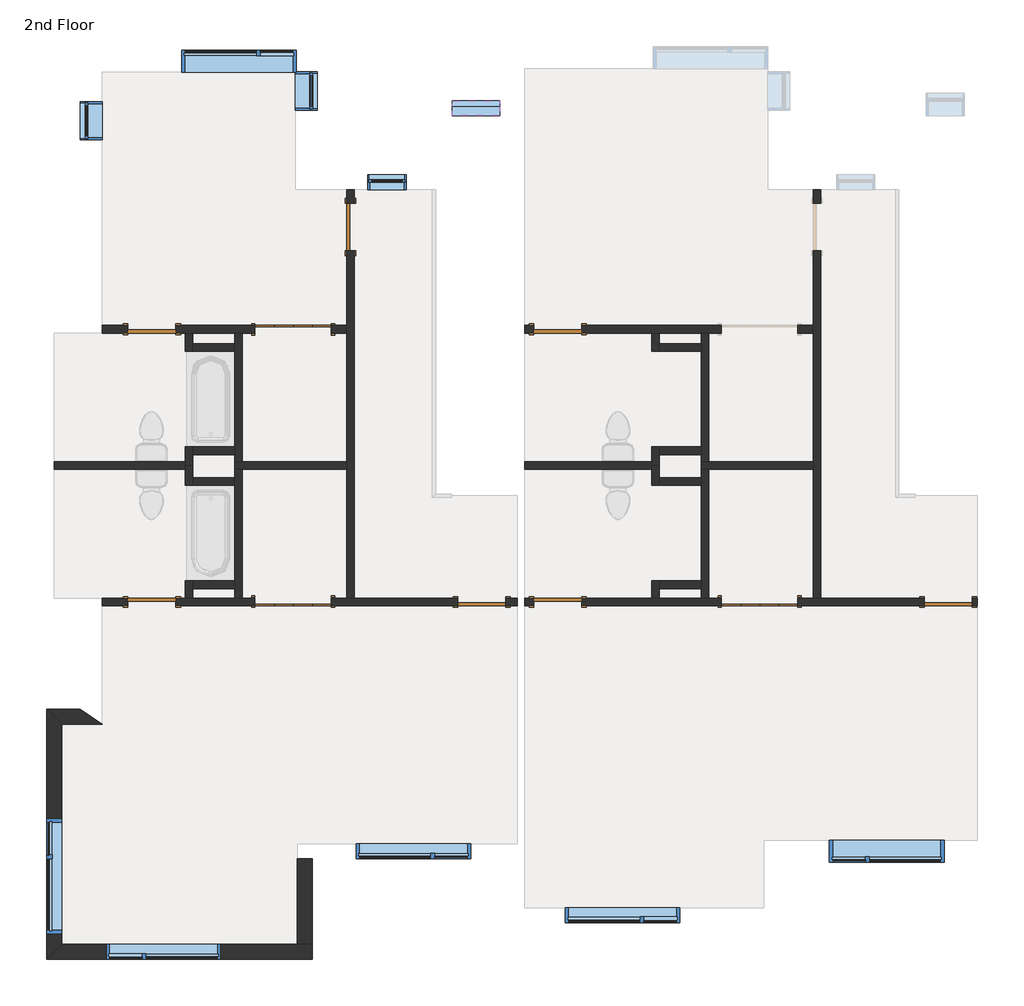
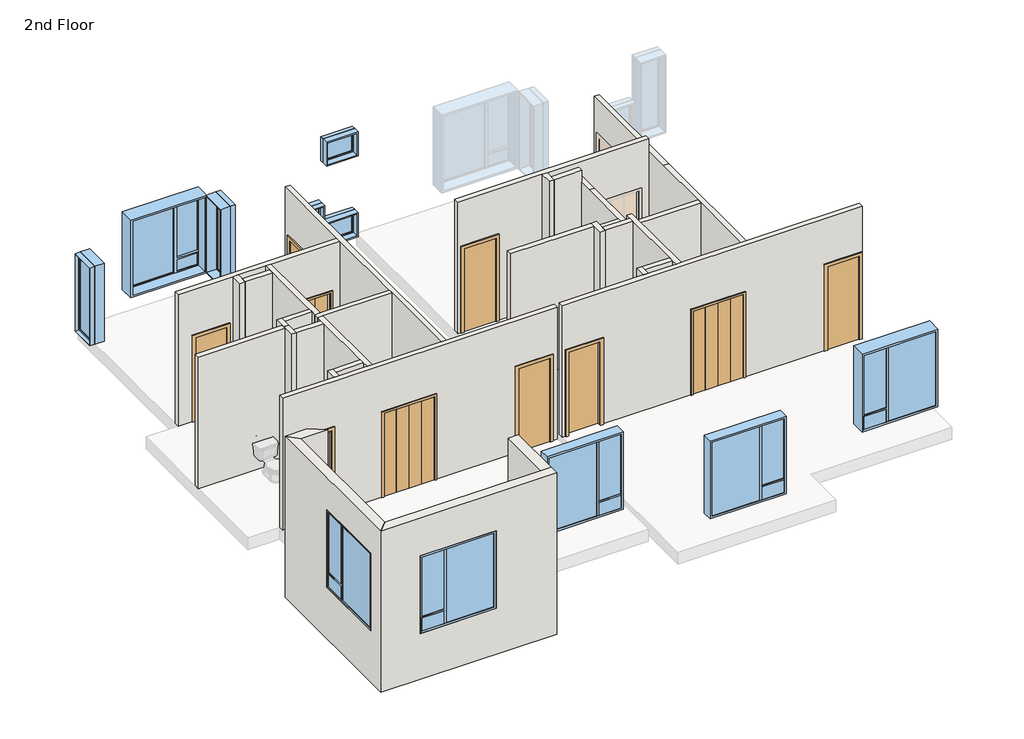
# One storey, part 1 of 2: 34 walls, 12 windows, 10 doors.
"""IFC4 building model written with IfcOpenShell, lengths in millimetres."""

from ifc_helpers import new_model, si_unit, frame, origin, place, context, project, spatial, polyline, outline, extrude, faceted_brep, transform, mapped, element, save
from components import bifold_4_panel_c9060b8c, bifold_4_panel_87549022, door_f8acb57e, door_702a1063, window_8bf192ed, window_b1c1038b, window_03925a3a, window_7b40078c, window_0ea17b29, window_b4566f23

model = new_model("IFC4")

# Units and contexts
model_context = context("Model", 3, world=origin())
ifc_project = project(units=[si_unit("LENGTHUNIT", "METRE", prefix="MILLI")], contexts=[model_context])

# Site, building, storey
site = spatial("IfcSite", under=ifc_project)
building = spatial("IfcBuilding", under=site)
storey = spatial("IfcBuildingStorey", under=building, Name="2nd Floor", Elevation=3352.8)

# Doors
placement = place(None, origin())
bifold_4_panel_shape = bifold_4_panel_c9060b8c(model_context)
element("IfcDoor", 1, ObjectType="Bifold - 4 panel : 48\" x  84\"", at=placement, inside=storey, context=model_context, shape_type="MappedRepresentation", body=[
    mapped(bifold_4_panel_shape, transform((2169.4655789, -2059.4561915, 3352.8), x_axis=(1.0, 0.0, 0.0), y_axis=(0.0, 1.0, 0.0), z_axis=(0.0, 0.0, 1.0))),
])
element("IfcDoor", 2, ObjectType="Bifold - 4 panel : 48\" x  84\"", at=placement, inside=storey, context=model_context, shape_type="MappedRepresentation", body=[
    mapped(bifold_4_panel_shape, transform((-5271.2844211, -2059.4561915, 3352.8), x_axis=(1.0, 0.0, 0.0), y_axis=(0.0, 1.0, 0.0), z_axis=(0.0, 0.0, 1.0))),
])
bifold_4_panel_2_shape = bifold_4_panel_87549022(model_context)
element("IfcDoor", 3, ObjectType="Bifold - 4 panel : 48\" x  84\"", at=placement, inside=storey, context=model_context, shape_type="MappedRepresentation", body=[
    mapped(bifold_4_panel_2_shape, transform((-5271.2844211, 2292.6699206, 3352.8), x_axis=(1.0, 0.0, 0.0), y_axis=(0.0, 1.0, 0.0), z_axis=(0.0, 0.0, 1.0))),
])
door_shape = door_f8acb57e(model_context)
element("IfcDoor", 4, ObjectType="Single-Flush : 30\" x 84\"", at=placement, inside=storey, context=model_context, shape_type="MappedRepresentation", body=[
    mapped(door_shape, transform((-1052.2446781, 2292.6699206, 3352.8), x_axis=(-1.0, 0.0, 0.0), y_axis=(0.0, -1.0, 0.0), z_axis=(0.0, 0.0, 1.0))),
])
element("IfcDoor", 5, ObjectType="Single-Flush : 30\" x 84\"", at=placement, inside=storey, context=model_context, shape_type="MappedRepresentation", body=[
    mapped(door_shape, transform((-4356.8844211, 3921.3063085, 3352.8), x_axis=(0.0, 1.0, 0.0), y_axis=(-1.0, 0.0, 0.0), z_axis=(0.0, 0.0, 1.0))),
])
element("IfcDoor", 6, ObjectType="Single-Flush : 30\" x 84\"", at=placement, inside=storey, context=model_context, shape_type="MappedRepresentation", body=[
    mapped(door_shape, transform((-7524.7446781, -2059.4561915, 3352.8), x_axis=(1.0, 0.0, 0.0), y_axis=(0.0, 1.0, 0.0), z_axis=(0.0, 0.0, 1.0))),
])
door_2_shape = door_702a1063(model_context)
element("IfcDoor", 7, ObjectType="Single-Flush : 30\" x 84\"", at=placement, inside=storey, context=model_context, shape_type="MappedRepresentation", body=[
    mapped(door_2_shape, transform((-1052.2446781, -2059.4561915, 3352.8), x_axis=(-1.0, 0.0, 0.0), y_axis=(0.0, -1.0, 0.0), z_axis=(0.0, 0.0, 1.0))),
])
element("IfcDoor", 8, ObjectType="Single-Flush : 30\" x 84\"", at=placement, inside=storey, context=model_context, shape_type="MappedRepresentation", body=[
    mapped(door_2_shape, transform((5177.5155789, -2059.4561915, 3352.8), x_axis=(1.0, 0.0, 0.0), y_axis=(0.0, 1.0, 0.0), z_axis=(0.0, 0.0, 1.0))),
])
element("IfcDoor", 9, ObjectType="Single-Flush : 30\" x 84\"", at=placement, inside=storey, context=model_context, shape_type="MappedRepresentation", body=[
    mapped(door_2_shape, transform((-7524.7446781, 2292.6699206, 3352.8), x_axis=(1.0, 0.0, 0.0), y_axis=(0.0, 1.0, 0.0), z_axis=(0.0, 0.0, 1.0))),
])
element("IfcDoor", 10, ObjectType="Single-Flush : 30\" x 84\"", at=placement, inside=storey, context=model_context, shape_type="MappedRepresentation", body=[
    mapped(door_2_shape, transform((-2263.2344211, -2059.4561915, 3352.8), x_axis=(1.0, 0.0, 0.0), y_axis=(0.0, 1.0, 0.0), z_axis=(0.0, 0.0, 1.0))),
])

# Walls
element("IfcWall", 11, ObjectType="Exterior - Stucco", at=placement, inside=storey, context=model_context, shape_type="Brep", body=[
    faceted_brep([(-9204.3196781, -7758.9936915, 2952.8), (-4962.9321781, -7758.9936915, 2952.8), (-4962.9321781, -7758.9936915, 7052.8), (-9204.3196781, -7758.9936915, 7052.8), (-8255.0946781, -7758.9936915, 6096.0), (-6426.2946781, -7758.9936915, 6096.0), (-6426.2946781, -7758.9936915, 4114.8), (-8255.0946781, -7758.9936915, 4114.8), (-8963.0196781, -7517.6936915, 2952.8), (-8963.0196781, -7517.6936915, 7052.8), (-5204.2321781, -7517.6936915, 7052.8), (-4962.9321781, -7517.6936915, 7052.8), (-4962.9321781, -7517.6936915, 2952.8), (-5204.2321781, -7517.6936915, 2952.8), (-8255.0946781, -7517.6936915, 6096.0), (-8255.0946781, -7517.6936915, 4114.8), (-6426.2946781, -7517.6936915, 4114.8), (-6426.2946781, -7517.6936915, 6096.0)], [[[0, 1, 2, 3], [4, 5, 6, 7]], [[8, 9, 10, 11, 12, 13], [14, 15, 16, 17]], [[1, 0, 8, 13, 12]], [[3, 2, 11, 10, 9]], [[0, 3, 9, 8]], [[2, 1, 12, 11]], [[15, 14, 4, 7]], [[16, 15, 7, 6]], [[17, 16, 6, 5]], [[14, 17, 5, 4]]]),
])
element("IfcWall", 12, ObjectType="Exterior - Stucco", at=placement, inside=storey, context=model_context, shape_type="Brep", body=[
    faceted_brep([(-9204.3196781, -3770.7811915, 2952.8), (-9204.3196781, -7758.9936915, 2952.8), (-9204.3196781, -7758.9936915, 7052.8), (-9204.3196781, -3770.7811915, 7052.8), (-9204.3196781, -5519.0311915, 6248.4), (-9204.3196781, -7347.8311915, 6248.4), (-9204.3196781, -7347.8311915, 4267.2), (-9204.3196781, -5519.0311915, 4267.2), (-8963.0196781, -4012.0811915, 2952.8), (-8963.0196781, -4012.0811915, 7052.8), (-8963.0196781, -7517.6936915, 7052.8), (-8963.0196781, -7517.6936915, 2952.8), (-8963.0196781, -5519.0311915, 6248.4), (-8963.0196781, -5519.0311915, 4267.2), (-8963.0196781, -7347.8311915, 4267.2), (-8963.0196781, -7347.8311915, 6248.4)], [[[0, 1, 2, 3], [4, 5, 6, 7]], [[8, 9, 10, 11], [12, 13, 14, 15]], [[1, 0, 8, 11]], [[3, 2, 10, 9]], [[2, 1, 11, 10]], [[0, 3, 9, 8]], [[13, 12, 4, 7]], [[14, 13, 7, 6]], [[15, 14, 6, 5]], [[12, 15, 5, 4]]]),
])
element("IfcWall", 13, ObjectType="Exterior - Stucco", at=placement, inside=storey, context=model_context, shape_type="SweptSolid", body=[
    extrude(outline(polyline([(-9204.3196781, -3770.7811915), (-8664.6696781, -3770.7811915), (-8312.2446781, -4012.0811915), (-8963.0196781, -4012.0811915), (-9204.3196781, -3770.7811915)])), frame((0.0, 0.0, 2952.8), z_axis=(0.0, 0.0, 1.0), x_axis=(1.0, 0.0, 0.0)), (0.0, 0.0, 1.0), 4100.0),
])
element("IfcWall", 14, ObjectType="Exterior - Stucco", at=placement, inside=storey, context=model_context, shape_type="Brep", body=[
    faceted_brep([(-4962.9321781, -7517.6936915, 2952.75), (-4962.9321781, -6155.1546456, 2952.75), (-4962.9321781, -6155.1546456, 7052.6671875), (-4962.9321781, -7517.6936915, 7052.6671875), (-5204.2321781, -7517.6936915, 2952.75), (-5204.2321781, -7517.6936915, 7052.6671875), (-5204.2321781, -6155.1546456, 7052.6671875), (-5204.2321781, -6155.1546456, 3048.0), (-5204.2321781, -6155.1546456, 2952.75)], [[[0, 1, 2, 3]], [[4, 5, 6, 7, 8]], [[1, 0, 4, 8]], [[3, 2, 6, 5]], [[1, 8, 7, 6, 2]], [[0, 3, 5, 4]]]),
])
element("IfcWall", 15, ObjectType="Interior - 4 7/8\" Partition (1-hr)", at=placement, inside=storey, context=model_context, shape_type="Brep", body=[
    faceted_brep([(3145.7780789, 4302.3063085, 5486.4), (3145.7780789, 4302.3063085, 3352.8), (3145.7780789, 4511.8563085, 3352.8), (3145.7780789, 4511.8563085, 6400.8), (3145.7780789, 1625.1313085, 6400.8), (3145.7780789, -1997.5436915, 6400.8), (3145.7780789, -1997.5436915, 3352.8), (3145.7780789, 3540.3063085, 3352.8), (3145.7780789, 3540.3063085, 5486.4), (3021.9530789, 4511.8563085, 3352.8), (3021.9530789, 4302.3063085, 3352.8), (3021.9530789, 4302.3063085, 5486.4), (3021.9530789, 3540.3063085, 5486.4), (3021.9530789, 3540.3063085, 3352.8), (3021.9530789, 2354.5824206, 3352.8), (3021.9530789, 2230.7574206, 3352.8), (3021.9530789, 178.5193646, 3352.8), (3021.9530789, 54.6943646, 3352.8), (3021.9530789, -1997.5436915, 3352.8), (3021.9530789, -1997.5436915, 6400.8), (3021.9530789, 54.6943646, 6400.8), (3021.9530789, 178.5193646, 6400.8), (3021.9530789, 1625.1313085, 6400.8), (3021.9530789, 4511.8563085, 6400.8)], [[[0, 1, 2, 3, 4, 5, 6, 7, 8]], [[9, 10, 11, 12, 13, 14, 15, 16, 17, 18, 19, 20, 21, 22, 23]], [[2, 1, 10, 9]], [[7, 6, 18, 17, 16, 15, 14, 13]], [[9, 23, 3, 2]], [[19, 18, 6, 5]], [[23, 22, 4, 3]], [[22, 21, 20, 19, 5, 4]], [[11, 10, 1, 0]], [[12, 11, 0, 8]], [[13, 12, 8, 7]]]),
])
element("IfcWall", 16, ObjectType="Interior - 4 7/8\" Partition (1-hr)", at=placement, inside=storey, context=model_context, shape_type="Brep", body=[
    faceted_brep([(3021.9530789, 54.6943646, 3352.8), (3021.9530789, 54.6943646, 6400.8), (1235.1530789, 54.6943646, 6400.8), (1235.1530789, 54.6943646, 3352.8), (1358.9780789, 54.6943646, 3352.8), (3021.9530789, 178.5193646, 3352.8), (1358.9780789, 178.5193646, 3352.8), (1235.1530789, 178.5193646, 3352.8), (1235.1530789, 178.5193646, 6400.8), (1358.9780789, 178.5193646, 6400.8), (3021.9530789, 178.5193646, 6400.8)], [[[0, 1, 2, 3, 4]], [[5, 6, 7, 8, 9, 10]], [[7, 6, 5, 0, 4, 3]], [[8, 7, 3, 2]], [[5, 10, 1, 0]], [[10, 9, 8, 2, 1]]]),
])
element("IfcWall", 17, ObjectType="Interior - 4 7/8\" Partition (1-hr)", at=placement, inside=storey, context=model_context, shape_type="Brep", body=[
    faceted_brep([(3021.9530789, 2354.5824206, 6705.6), (-1576.1196781, 2354.5824206, 6705.6), (-1576.1196781, 2230.7574206, 6705.6), (447.7530789, 2230.7574206, 6705.6), (571.5780789, 2230.7574206, 6705.6), (3021.9530789, 2230.7574206, 6705.6), (-1576.1196781, 2230.7574206, 3352.8), (-1433.2446781, 2230.7574206, 3352.8), (-1433.2446781, 2230.7574206, 5486.4), (-671.2446781, 2230.7574206, 5486.4), (-671.2446781, 2230.7574206, 3352.8), (447.7530789, 2230.7574206, 3352.8), (571.5780789, 2230.7574206, 3352.8), (1235.1530789, 2230.7574206, 3352.8), (1358.9780789, 2230.7574206, 3352.8), (1559.8655789, 2230.7574206, 3352.8), (1559.8655789, 2230.7574206, 5486.4), (2779.0655789, 2230.7574206, 5486.4), (2779.0655789, 2230.7574206, 3352.8), (3021.9530789, 2230.7574206, 3352.8), (3021.9530789, 2354.5824206, 3352.8), (2779.0655789, 2354.5824206, 3352.8), (2779.0655789, 2354.5824206, 5486.4), (1559.8655789, 2354.5824206, 5486.4), (1559.8655789, 2354.5824206, 3352.8), (-671.2446781, 2354.5824206, 3352.8), (-671.2446781, 2354.5824206, 5486.4), (-1433.2446781, 2354.5824206, 5486.4), (-1433.2446781, 2354.5824206, 3352.8), (-1576.1196781, 2354.5824206, 3352.8)], [[[0, 1, 2, 3, 4, 5]], [[5, 4, 3, 2, 6, 7, 8, 9, 10, 11, 12, 13, 14, 15, 16, 17, 18, 19]], [[1, 0, 20, 21, 22, 23, 24, 25, 26, 27, 28, 29]], [[20, 19, 18, 21]], [[6, 29, 28, 7]], [[24, 15, 14, 13, 12, 11, 10, 25]], [[20, 0, 5, 19]], [[1, 29, 6, 2]], [[17, 22, 21, 18]], [[22, 17, 16, 23]], [[23, 16, 15, 24]], [[27, 8, 7, 28]], [[8, 27, 26, 9]], [[9, 26, 25, 10]]]),
])
element("IfcWall", 18, ObjectType="Interior - 4 7/8\" Partition (1-hr)", at=placement, inside=storey, context=model_context, shape_type="Brep", body=[
    faceted_brep([(1235.1530789, 178.5193646, 3352.8), (1235.1530789, 178.5193646, 6400.8), (1235.1530789, 289.2824206, 6400.8), (1235.1530789, 413.1074206, 6400.8), (1235.1530789, 1625.1313085, 6400.8), (1235.1530789, 2230.7574206, 6400.8), (1235.1530789, 2230.7574206, 3352.8), (1235.1530789, 2060.9324206, 3352.8), (1235.1530789, 1937.1074206, 3352.8), (1235.1530789, 413.1074206, 3352.8), (1235.1530789, 289.2824206, 3352.8), (1358.9780789, 178.5193646, 3352.8), (1358.9780789, 2230.7574206, 3352.8), (1358.9780789, 2230.7574206, 6400.8), (1358.9780789, 1625.1313085, 6400.8), (1358.9780789, 178.5193646, 6400.8)], [[[0, 1, 2, 3, 4, 5, 6, 7, 8, 9, 10]], [[11, 12, 13, 14, 15]], [[12, 11, 0, 10, 9, 8, 7, 6]], [[11, 15, 1, 0]], [[13, 12, 6, 5]], [[14, 13, 5, 4]], [[15, 14, 4, 3, 2, 1]]]),
])
element("IfcWall", 19, ObjectType="Interior - 4 7/8\" Partition (1-hr)", at=placement, inside=storey, context=model_context, shape_type="Brep", body=[
    faceted_brep([(447.7530789, 2230.7574206, 3352.8), (447.7530789, 1937.1074206, 3352.8), (447.7530789, 1937.1074206, 6705.6), (447.7530789, 2230.7574206, 6705.6), (571.5780789, 2230.7574206, 3352.8), (571.5780789, 2230.7574206, 6705.6), (571.5780789, 2060.9324206, 6705.6), (571.5780789, 1937.1074206, 6705.6), (571.5780789, 1937.1074206, 3352.8), (571.5780789, 2060.9324206, 3352.8)], [[[0, 1, 2, 3]], [[4, 5, 6, 7, 8, 9]], [[1, 0, 4, 9, 8]], [[3, 2, 7, 6, 5]], [[2, 1, 8, 7]], [[0, 3, 5, 4]]]),
])
element("IfcWall", 20, ObjectType="Interior - 4 7/8\" Partition (1-hr)", at=placement, inside=storey, context=model_context, shape_type="SweptSolid", body=[
    extrude(outline(polyline([(1235.1530789, 1937.1074206), (571.5780789, 1937.1074206), (571.5780789, 2060.9324206), (1235.1530789, 2060.9324206), (1235.1530789, 1937.1074206)])), frame((0.0, 0.0, 3352.8), z_axis=(0.0, 0.0, 1.0), x_axis=(1.0, 0.0, 0.0)), (0.0, 0.0, 1.0), 3352.8),
])
element("IfcWall", 21, ObjectType="Interior - 4 7/8\" Partition (1-hr)", at=placement, inside=storey, context=model_context, shape_type="Brep", body=[
    faceted_brep([(571.5780789, 116.6068646, 3352.8), (571.5780789, 116.6068646, 6400.8), (447.7530789, 116.6068646, 6400.8), (447.7530789, 116.6068646, 3352.8), (447.7530789, 178.5193646, 6400.8), (447.7530789, 413.1074206, 6400.8), (447.7530789, 413.1074206, 3352.8), (447.7530789, 178.5193646, 3352.8), (571.5780789, 289.2824206, 3352.8), (571.5780789, 413.1074206, 3352.8), (571.5780789, 413.1074206, 6400.8), (571.5780789, 289.2824206, 6400.8), (571.5780789, 178.5193646, 6400.8)], [[[0, 1, 2, 3]], [[3, 2, 4, 5, 6, 7]], [[0, 8, 9, 10, 11, 12, 1]], [[9, 8, 0, 3, 7, 6]], [[10, 9, 6, 5]], [[1, 12, 11, 10, 5, 4, 2]]]),
])
element("IfcWall", 22, ObjectType="Interior - 4 7/8\" Partition (1-hr)", at=placement, inside=storey, context=model_context, shape_type="SweptSolid", body=[
    extrude(outline(polyline([(1235.1530789, 289.2824206), (571.5780789, 289.2824206), (571.5780789, 413.1074206), (1235.1530789, 413.1074206), (1235.1530789, 289.2824206)])), frame((0.0, 0.0, 3352.8), z_axis=(0.0, 0.0, 1.0), x_axis=(1.0, 0.0, 0.0)), (0.0, 0.0, 1.0), 3048.0),
])
element("IfcWall", 23, ObjectType="Interior - 4 7/8\" Partition (1-hr)", at=placement, inside=storey, context=model_context, shape_type="Brep", body=[
    faceted_brep([(5642.6530789, -1997.5436915, 3352.8), (5558.5155789, -1997.5436915, 3352.8), (5558.5155789, -1997.5436915, 5486.4), (4796.5155789, -1997.5436915, 5486.4), (4796.5155789, -1997.5436915, 3352.8), (3145.7780789, -1997.5436915, 3352.8), (3021.9530789, -1997.5436915, 3352.8), (2779.0655789, -1997.5436915, 3352.8), (2779.0655789, -1997.5436915, 5486.4), (1559.8655789, -1997.5436915, 5486.4), (1559.8655789, -1997.5436915, 3352.8), (1358.9780789, -1997.5436915, 3352.8), (1235.1530789, -1997.5436915, 3352.8), (571.5780789, -1997.5436915, 3352.8), (447.7530789, -1997.5436915, 3352.8), (-671.2446781, -1997.5436915, 3352.8), (-671.2446781, -1997.5436915, 5486.4), (-1433.2446781, -1997.5436915, 5486.4), (-1433.2446781, -1997.5436915, 3352.8), (-1576.1196781, -1997.5436915, 3352.8), (-1576.1196781, -1997.5436915, 6705.6), (447.7530789, -1997.5436915, 6705.6), (571.5780789, -1997.5436915, 6705.6), (1235.1530789, -1997.5436915, 6705.6), (1358.9780789, -1997.5436915, 6705.6), (5642.6530789, -1997.5436915, 6705.6), (5558.5155789, -2121.3686915, 5486.4), (5558.5155789, -2121.3686915, 3352.8), (5642.6530789, -2121.3686915, 3352.8), (5642.6530789, -2121.3686915, 6705.6), (-1576.1196781, -2121.3686915, 6705.6), (-1576.1196781, -2121.3686915, 3352.8), (-1433.2446781, -2121.3686915, 3352.8), (-1433.2446781, -2121.3686915, 5486.4), (-671.2446781, -2121.3686915, 5486.4), (-671.2446781, -2121.3686915, 3352.8), (1559.8655789, -2121.3686915, 3352.8), (1559.8655789, -2121.3686915, 5486.4), (2779.0655789, -2121.3686915, 5486.4), (2779.0655789, -2121.3686915, 3352.8), (4796.5155789, -2121.3686915, 3352.8), (4796.5155789, -2121.3686915, 5486.4)], [[[0, 1, 2, 3, 4, 5, 6, 7, 8, 9, 10, 11, 12, 13, 14, 15, 16, 17, 18, 19, 20, 21, 22, 23, 24, 25]], [[26, 27, 28, 29, 30, 31, 32, 33, 34, 35, 36, 37, 38, 39, 40, 41]], [[28, 27, 1, 0]], [[31, 19, 18, 32]], [[10, 36, 35, 15, 14, 13, 12, 11]], [[40, 39, 7, 6, 5, 4]], [[25, 24, 23, 22, 21, 20, 30, 29]], [[0, 25, 29, 28]], [[20, 19, 31, 30]], [[8, 7, 39, 38]], [[9, 8, 38, 37]], [[10, 9, 37, 36]], [[17, 33, 32, 18]], [[33, 17, 16, 34]], [[34, 16, 15, 35]], [[2, 1, 27, 26]], [[3, 2, 26, 41]], [[4, 3, 41, 40]]]),
])
element("IfcWall", 24, ObjectType="Interior - 4 7/8\" Partition (1-hr)", at=placement, inside=storey, context=model_context, shape_type="Brep", body=[
    faceted_brep([(1235.1530789, 54.6943646, 3352.8), (1235.1530789, -76.6556354, 3352.8), (1235.1530789, -200.4806354, 3352.8), (1235.1530789, -1724.4806354, 3352.8), (1235.1530789, -1848.3056354, 3352.8), (1235.1530789, -1997.5436915, 3352.8), (1235.1530789, -1997.5436915, 6705.6), (1235.1530789, -1848.3056354, 6705.6), (1235.1530789, -1724.4806354, 6705.6), (1235.1530789, -200.4806354, 6705.6), (1235.1530789, -76.6556354, 6705.6), (1235.1530789, 54.6943646, 6705.6), (1235.1530789, 54.6943646, 6400.8), (1358.9780789, 54.6943646, 3352.8), (1358.9780789, 54.6943646, 6705.6), (1358.9780789, -1997.5436915, 6705.6), (1358.9780789, -1997.5436915, 3352.8)], [[[0, 1, 2, 3, 4, 5, 6, 7, 8, 9, 10, 11, 12]], [[13, 14, 15, 16]], [[5, 4, 3, 2, 1, 0, 13, 16]], [[11, 10, 9, 8, 7, 6, 15, 14]], [[6, 5, 16, 15]], [[0, 12, 11, 14, 13]]]),
])
element("IfcWall", 25, ObjectType="Interior - 4 7/8\" Partition (1-hr)", at=placement, inside=storey, context=model_context, shape_type="Brep", body=[
    faceted_brep([(571.5780789, -1997.5436915, 3352.8), (571.5780789, -1848.3056354, 3352.8), (571.5780789, -1724.4806354, 3352.8), (571.5780789, -1724.4806354, 6705.6), (571.5780789, -1848.3056354, 6705.6), (571.5780789, -1997.5436915, 6705.6), (447.7530789, -1997.5436915, 3352.8), (447.7530789, -1997.5436915, 6705.6), (447.7530789, -1724.4806354, 6705.6), (447.7530789, -1724.4806354, 3352.8)], [[[0, 1, 2, 3, 4, 5]], [[6, 7, 8, 9]], [[2, 1, 0, 6, 9]], [[5, 4, 3, 8, 7]], [[3, 2, 9, 8]], [[0, 5, 7, 6]]]),
])
element("IfcWall", 26, ObjectType="Interior - 4 7/8\" Partition (1-hr)", at=placement, inside=storey, context=model_context, shape_type="SweptSolid", body=[
    extrude(outline(polyline([(1235.1530789, -1848.3056354), (571.5780789, -1848.3056354), (571.5780789, -1724.4806354), (1235.1530789, -1724.4806354), (1235.1530789, -1848.3056354)])), frame((0.0, 0.0, 3352.8), z_axis=(0.0, 0.0, 1.0), x_axis=(1.0, 0.0, 0.0)), (0.0, 0.0, 1.0), 3352.8),
])
element("IfcWall", 27, ObjectType="Interior - 4 7/8\" Partition (1-hr)", at=placement, inside=storey, context=model_context, shape_type="Brep", body=[
    faceted_brep([(447.7530789, 116.6068646, 3352.8), (447.7530789, 54.6943646, 3352.8), (447.7530789, -200.4806354, 3352.8), (447.7530789, -200.4806354, 6705.6), (447.7530789, 54.6943646, 6705.6), (447.7530789, 178.5193646, 6705.6), (447.7530789, 178.5193646, 6400.8), (447.7530789, 116.6068646, 6400.8), (571.5780789, 116.6068646, 3352.8), (571.5780789, 116.6068646, 6400.8), (571.5780789, 178.5193646, 6400.8), (571.5780789, 178.5193646, 6705.6), (571.5780789, -76.6556354, 6705.6), (571.5780789, -200.4806354, 6705.6), (571.5780789, -200.4806354, 3352.8), (571.5780789, -76.6556354, 3352.8)], [[[0, 1, 2, 3, 4, 5, 6, 7]], [[8, 9, 10, 11, 12, 13, 14, 15]], [[2, 1, 0, 8, 15, 14]], [[5, 4, 3, 13, 12, 11]], [[3, 2, 14, 13]], [[0, 7, 9, 8]], [[6, 10, 9, 7]], [[6, 5, 11, 10]]]),
])
element("IfcWall", 28, ObjectType="Interior - 4 7/8\" Partition (1-hr)", at=placement, inside=storey, context=model_context, shape_type="SweptSolid", body=[
    extrude(outline(polyline([(1235.1530789, -200.4806354), (571.5780789, -200.4806354), (571.5780789, -76.6556354), (1235.1530789, -76.6556354), (1235.1530789, -200.4806354)])), frame((0.0, 0.0, 3352.8), z_axis=(0.0, 0.0, 1.0), x_axis=(1.0, 0.0, 0.0)), (0.0, 0.0, 1.0), 3352.8),
])
element("IfcWall", 29, ObjectType="Interior - 4 7/8\" Partition (1-hr)", at=placement, inside=storey, context=model_context, shape_type="Brep", body=[
    faceted_brep([(447.7530789, 178.5193646, 6705.6), (447.7530789, 178.5193646, 6400.8), (447.7530789, 178.5193646, 3352.8), (-1576.1196781, 178.5193646, 3352.8), (-1576.1196781, 178.5193646, 6705.6), (447.7530789, 54.6943646, 3352.8), (447.7530789, 54.6943646, 6705.6), (-1576.1196781, 54.6943646, 6705.6), (-1576.1196781, 54.6943646, 3352.8), (447.7530789, 116.6068646, 3352.8)], [[[0, 1, 2, 3, 4]], [[5, 6, 7, 8]], [[3, 2, 9, 5, 8]], [[0, 4, 7, 6]], [[0, 6, 5, 9, 2, 1]], [[4, 3, 8, 7]]]),
])
element("IfcWall", 30, ObjectType="Interior - 4 7/8\" Partition (1-hr)", at=placement, inside=storey, context=model_context, shape_type="Brep", body=[
    faceted_brep([(-4418.7969211, 4511.8563085, 6705.6), (-4418.7969211, 2354.5824206, 6705.6), (-4418.7969211, 2230.7574206, 6705.6), (-4418.7969211, 178.5193646, 6705.6), (-4418.7969211, 54.6943646, 6705.6), (-4418.7969211, -1997.5436915, 6705.6), (-4294.9719211, -1997.5436915, 6705.6), (-4294.9719211, 4511.8563085, 6705.6), (-4294.9719211, 4302.3063085, 5486.4), (-4294.9719211, 4302.3063085, 3352.8), (-4294.9719211, 4511.8563085, 3352.8), (-4294.9719211, -1997.5436915, 3352.8), (-4294.9719211, 3540.3063085, 3352.8), (-4294.9719211, 3540.3063085, 5486.4), (-4418.7969211, 4511.8563085, 3352.8), (-4418.7969211, 4302.3063085, 3352.8), (-4418.7969211, 4302.3063085, 5486.4), (-4418.7969211, 3540.3063085, 5486.4), (-4418.7969211, 3540.3063085, 3352.8), (-4418.7969211, 2354.5824206, 3352.8), (-4418.7969211, 2230.7574206, 3352.8), (-4418.7969211, 178.5193646, 3352.8), (-4418.7969211, 54.6943646, 3352.8), (-4418.7969211, -1997.5436915, 3352.8)], [[[0, 1, 2, 3, 4, 5, 6, 7]], [[8, 9, 10, 7, 6, 11, 12, 13]], [[14, 15, 16, 17, 18, 19, 20, 21, 22, 23, 5, 4, 3, 2, 1, 0]], [[10, 9, 15, 14]], [[12, 11, 23, 22, 21, 20, 19, 18]], [[5, 23, 11, 6]], [[14, 0, 7, 10]], [[16, 15, 9, 8]], [[17, 16, 8, 13]], [[18, 17, 13, 12]]]),
])
element("IfcWall", 31, ObjectType="Interior - 4 7/8\" Partition (1-hr)", at=placement, inside=storey, context=model_context, shape_type="Brep", body=[
    faceted_brep([(-4418.7969211, 178.5193646, 3352.8), (-6081.7719211, 178.5193646, 3352.8), (-6205.5969211, 178.5193646, 3352.8), (-6205.5969211, 178.5193646, 6705.6), (-6081.7719211, 178.5193646, 6705.6), (-4418.7969211, 178.5193646, 6705.6), (-4418.7969211, 54.6943646, 3352.8), (-4418.7969211, 54.6943646, 6705.6), (-6081.7719211, 54.6943646, 6705.6), (-6205.5969211, 54.6943646, 6705.6), (-6205.5969211, 54.6943646, 3352.8), (-6081.7719211, 54.6943646, 3352.8)], [[[0, 1, 2, 3, 4, 5]], [[6, 7, 8, 9, 10, 11]], [[2, 1, 0, 6, 11, 10]], [[5, 4, 3, 9, 8, 7]], [[3, 2, 10, 9]], [[0, 5, 7, 6]]]),
])
element("IfcWall", 32, ObjectType="Interior - 4 7/8\" Partition (1-hr)", at=placement, inside=storey, context=model_context, shape_type="Brep", body=[
    faceted_brep([(-4418.7969211, 2354.5824206, 6705.6), (-8312.2446781, 2354.5824206, 6705.6), (-8312.2446781, 2230.7574206, 6705.6), (-6992.9969211, 2230.7574206, 6705.6), (-6869.1719211, 2230.7574206, 6705.6), (-6205.5969211, 2230.7574206, 6705.6), (-6081.7719211, 2230.7574206, 6705.6), (-4418.7969211, 2230.7574206, 6705.6), (-8312.2446781, 2230.7574206, 3352.8), (-7905.7446781, 2230.7574206, 3352.8), (-7905.7446781, 2230.7574206, 5486.4), (-7143.7446781, 2230.7574206, 5486.4), (-7143.7446781, 2230.7574206, 3352.8), (-6992.9969211, 2230.7574206, 3352.8), (-6869.1719211, 2230.7574206, 3352.8), (-6205.5969211, 2230.7574206, 3352.8), (-6081.7719211, 2230.7574206, 3352.8), (-5880.8844211, 2230.7574206, 3352.8), (-5880.8844211, 2230.7574206, 5486.4), (-4661.6844211, 2230.7574206, 5486.4), (-4661.6844211, 2230.7574206, 3352.8), (-4418.7969211, 2230.7574206, 3352.8), (-4418.7969211, 2354.5824206, 3352.8), (-4661.6844211, 2354.5824206, 3352.8), (-4661.6844211, 2354.5824206, 5486.4), (-5880.8844211, 2354.5824206, 5486.4), (-5880.8844211, 2354.5824206, 3352.8), (-7143.7446781, 2354.5824206, 3352.8), (-7143.7446781, 2354.5824206, 5486.4), (-7905.7446781, 2354.5824206, 5486.4), (-7905.7446781, 2354.5824206, 3352.8), (-8312.2446781, 2354.5824206, 3352.8)], [[[0, 1, 2, 3, 4, 5, 6, 7]], [[7, 6, 5, 4, 3, 2, 8, 9, 10, 11, 12, 13, 14, 15, 16, 17, 18, 19, 20, 21]], [[1, 0, 22, 23, 24, 25, 26, 27, 28, 29, 30, 31]], [[22, 21, 20, 23]], [[8, 31, 30, 9]], [[26, 17, 16, 15, 14, 13, 12, 27]], [[22, 0, 7, 21]], [[1, 31, 8, 2]], [[19, 24, 23, 20]], [[24, 19, 18, 25]], [[25, 18, 17, 26]], [[11, 28, 27, 12]], [[28, 11, 10, 29]], [[29, 10, 9, 30]]]),
])
element("IfcWall", 33, ObjectType="Interior - 4 7/8\" Partition (1-hr)", at=placement, inside=storey, context=model_context, shape_type="Brep", body=[
    faceted_brep([(-1699.9446781, -1997.5436915, 6705.6), (-4294.9719211, -1997.5436915, 6705.6), (-4418.7969211, -1997.5436915, 6705.6), (-6081.7719211, -1997.5436915, 6705.6), (-6205.5969211, -1997.5436915, 6705.6), (-6869.1719211, -1997.5436915, 6705.6), (-6992.9969211, -1997.5436915, 6705.6), (-8312.2446781, -1997.5436915, 6705.6), (-8312.2446781, -2121.3686915, 6705.6), (-1699.9446781, -2121.3686915, 6705.6), (-1882.2344211, -2121.3686915, 5486.4), (-1882.2344211, -2121.3686915, 3352.8), (-1699.9446781, -2121.3686915, 3352.8), (-8312.2446781, -2121.3686915, 3352.8), (-7905.7446781, -2121.3686915, 3352.8), (-7905.7446781, -2121.3686915, 5486.4), (-7143.7446781, -2121.3686915, 5486.4), (-7143.7446781, -2121.3686915, 3352.8), (-6218.0913287, -2121.3686915, 3352.8), (-5880.8844211, -2121.3686915, 3352.8), (-5880.8844211, -2121.3686915, 5486.4), (-4661.6844211, -2121.3686915, 5486.4), (-4661.6844211, -2121.3686915, 3352.8), (-2644.2344211, -2121.3686915, 3352.8), (-2644.2344211, -2121.3686915, 5486.4), (-1699.9446781, -1997.5436915, 3352.8), (-1882.2344211, -1997.5436915, 3352.8), (-1882.2344211, -1997.5436915, 5486.4), (-2644.2344211, -1997.5436915, 5486.4), (-2644.2344211, -1997.5436915, 3352.8), (-4294.9719211, -1997.5436915, 3352.8), (-4418.7969211, -1997.5436915, 3352.8), (-4661.6844211, -1997.5436915, 3352.8), (-4661.6844211, -1997.5436915, 5486.4), (-5880.8844211, -1997.5436915, 5486.4), (-5880.8844211, -1997.5436915, 3352.8), (-6081.7719211, -1997.5436915, 3352.8), (-6205.5969211, -1997.5436915, 3352.8), (-6218.0913287, -1997.5436915, 3352.8), (-6869.1719211, -1997.5436915, 3352.8), (-6992.9969211, -1997.5436915, 3352.8), (-7143.7446781, -1997.5436915, 3352.8), (-7143.7446781, -1997.5436915, 5486.4), (-7905.7446781, -1997.5436915, 5486.4), (-7905.7446781, -1997.5436915, 3352.8), (-8312.2446781, -1997.5436915, 3352.8)], [[[0, 1, 2, 3, 4, 5, 6, 7, 8, 9]], [[10, 11, 12, 9, 8, 13, 14, 15, 16, 17, 18, 19, 20, 21, 22, 23, 24]], [[25, 26, 27, 28, 29, 30, 31, 32, 33, 34, 35, 36, 37, 38, 39, 40, 41, 42, 43, 44, 45, 7, 6, 5, 4, 3, 2, 1, 0]], [[13, 45, 44, 14]], [[12, 11, 26, 25]], [[35, 19, 18, 17, 41, 40, 39, 38, 37, 36]], [[23, 22, 32, 31, 30, 29]], [[7, 45, 13, 8]], [[25, 0, 9, 12]], [[33, 32, 22, 21]], [[34, 33, 21, 20]], [[35, 34, 20, 19]], [[16, 42, 41, 17]], [[42, 16, 15, 43]], [[43, 15, 14, 44]], [[27, 26, 11, 10]], [[28, 27, 10, 24]], [[29, 28, 24, 23]]]),
])
element("IfcWall", 34, ObjectType="Interior - 4 7/8\" Partition (1-hr)", at=placement, inside=storey, context=model_context, shape_type="Brep", body=[
    faceted_brep([(-6205.5969211, 54.6943646, 3352.8), (-6205.5969211, -76.6556354, 3352.8), (-6205.5969211, -200.4806354, 3352.8), (-6205.5969211, -1724.4806354, 3352.8), (-6205.5969211, -1848.3056354, 3352.8), (-6205.5969211, -1997.5436915, 3352.8), (-6205.5969211, -1997.5436915, 6705.6), (-6205.5969211, -1848.3056354, 6705.6), (-6205.5969211, -1724.4806354, 6705.6), (-6205.5969211, -200.4806354, 6705.6), (-6205.5969211, -76.6556354, 6705.6), (-6205.5969211, 54.6943646, 6705.6), (-6081.7719211, 54.6943646, 3352.8), (-6081.7719211, 54.6943646, 6705.6), (-6081.7719211, -1997.5436915, 6705.6), (-6081.7719211, -1997.5436915, 3352.8)], [[[0, 1, 2, 3, 4, 5, 6, 7, 8, 9, 10, 11]], [[12, 13, 14, 15]], [[5, 4, 3, 2, 1, 0, 12, 15]], [[11, 10, 9, 8, 7, 6, 14, 13]], [[6, 5, 15, 14]], [[0, 11, 13, 12]]]),
])
element("IfcWall", 35, ObjectType="Interior - 4 7/8\" Partition (1-hr)", at=placement, inside=storey, context=model_context, shape_type="Brep", body=[
    faceted_brep([(-6869.1719211, -1997.5436915, 3352.8), (-6869.1719211, -1848.3056354, 3352.8), (-6869.1719211, -1724.4806354, 3352.8), (-6869.1719211, -1724.4806354, 6705.6), (-6869.1719211, -1848.3056354, 6705.6), (-6869.1719211, -1997.5436915, 6705.6), (-6992.9969211, -1997.5436915, 3352.8), (-6992.9969211, -1997.5436915, 6705.6), (-6992.9969211, -1724.4806354, 6705.6), (-6992.9969211, -1724.4806354, 3352.8)], [[[0, 1, 2, 3, 4, 5]], [[6, 7, 8, 9]], [[2, 1, 0, 6, 9]], [[5, 4, 3, 8, 7]], [[3, 2, 9, 8]], [[0, 5, 7, 6]]]),
])
element("IfcWall", 36, ObjectType="Interior - 4 7/8\" Partition (1-hr)", at=placement, inside=storey, context=model_context, shape_type="SweptSolid", body=[
    extrude(outline(polyline([(-6205.5969211, -1848.3056354), (-6869.1719211, -1848.3056354), (-6869.1719211, -1724.4806354), (-6205.5969211, -1724.4806354), (-6205.5969211, -1848.3056354)])), frame((0.0, 0.0, 3352.8), z_axis=(0.0, 0.0, 1.0), x_axis=(1.0, 0.0, 0.0)), (0.0, 0.0, 1.0), 3352.8),
])
element("IfcWall", 37, ObjectType="Interior - 4 7/8\" Partition (1-hr)", at=placement, inside=storey, context=model_context, shape_type="Brep", body=[
    faceted_brep([(-6992.9969211, 116.6068646, 3352.8), (-6992.9969211, 54.6943646, 3352.8), (-6992.9969211, -200.4806354, 3352.8), (-6992.9969211, -200.4806354, 6705.6), (-6992.9969211, 54.6943646, 6705.6), (-6992.9969211, 116.6068646, 6705.6), (-6869.1719211, 116.6068646, 3352.8), (-6869.1719211, 116.6068646, 6705.6), (-6869.1719211, -76.6556354, 6705.6), (-6869.1719211, -200.4806354, 6705.6), (-6869.1719211, -200.4806354, 3352.8), (-6869.1719211, -76.6556354, 3352.8)], [[[0, 1, 2, 3, 4, 5]], [[6, 7, 8, 9, 10, 11]], [[2, 1, 0, 6, 11, 10]], [[5, 4, 3, 9, 8, 7]], [[0, 5, 7, 6]], [[3, 2, 10, 9]]]),
])
element("IfcWall", 38, ObjectType="Interior - 4 7/8\" Partition (1-hr)", at=placement, inside=storey, context=model_context, shape_type="SweptSolid", body=[
    extrude(outline(polyline([(-6205.5969211, -200.4806354), (-6869.1719211, -200.4806354), (-6869.1719211, -76.6556354), (-6205.5969211, -76.6556354), (-6205.5969211, -200.4806354)])), frame((0.0, 0.0, 3352.8), z_axis=(0.0, 0.0, 1.0), x_axis=(1.0, 0.0, 0.0)), (0.0, 0.0, 1.0), 3352.8),
])
element("IfcWall", 39, ObjectType="Interior - Tile Wainscot", at=placement, inside=storey, context=model_context, shape_type="Brep", body=[
    faceted_brep([(-6081.7719211, 178.5193646, 3352.8), (-6081.7719211, 2230.7574206, 3352.8), (-6081.7719211, 2230.7574206, 6705.6), (-6081.7719211, 178.5193646, 6705.6), (-6205.5969211, 178.5193646, 3352.8), (-6205.5969211, 178.5193646, 6705.6), (-6205.5969211, 289.2824206, 6705.6), (-6205.5969211, 413.1074206, 6705.6), (-6205.5969211, 1937.1074206, 6705.6), (-6205.5969211, 2060.9324206, 6705.6), (-6205.5969211, 2230.7574206, 6705.6), (-6205.5969211, 2230.7574206, 3352.8), (-6205.5969211, 2060.9324206, 3352.8), (-6205.5969211, 1937.1074206, 3352.8), (-6205.5969211, 413.1074206, 3352.8), (-6205.5969211, 289.2824206, 3352.8)], [[[0, 1, 2, 3]], [[4, 5, 6, 7, 8, 9, 10, 11, 12, 13, 14, 15]], [[1, 0, 4, 15, 14, 13, 12, 11]], [[3, 2, 10, 9, 8, 7, 6, 5]], [[0, 3, 5, 4]], [[2, 1, 11, 10]]]),
])
element("IfcWall", 40, ObjectType="Interior - Tile Wainscot", at=placement, inside=storey, context=model_context, shape_type="Brep", body=[
    faceted_brep([(-6992.9969211, 2230.7574206, 3352.8), (-6992.9969211, 1937.1074206, 3352.8), (-6992.9969211, 1937.1074206, 6705.6), (-6992.9969211, 2230.7574206, 6705.6), (-6869.1719211, 2230.7574206, 3352.8), (-6869.1719211, 2230.7574206, 6705.6), (-6869.1719211, 2060.9324206, 6705.6), (-6869.1719211, 1937.1074206, 6705.6), (-6869.1719211, 1937.1074206, 3352.8), (-6869.1719211, 2060.9324206, 3352.8)], [[[0, 1, 2, 3]], [[4, 5, 6, 7, 8, 9]], [[1, 0, 4, 9, 8]], [[3, 2, 7, 6, 5]], [[2, 1, 8, 7]], [[0, 3, 5, 4]]]),
])
element("IfcWall", 41, ObjectType="Interior - Tile Wainscot", at=placement, inside=storey, context=model_context, shape_type="SweptSolid", body=[
    extrude(outline(polyline([(-6205.5969211, 1937.1074206), (-6869.1719211, 1937.1074206), (-6869.1719211, 2060.9324206), (-6205.5969211, 2060.9324206), (-6205.5969211, 1937.1074206)])), frame((0.0, 0.0, 3352.8), z_axis=(0.0, 0.0, 1.0), x_axis=(1.0, 0.0, 0.0)), (0.0, 0.0, 1.0), 3352.8),
])
element("IfcWall", 42, ObjectType="Interior - Tile Wainscot", at=placement, inside=storey, context=model_context, shape_type="Brep", body=[
    faceted_brep([(-6869.1719211, 116.6068646, 3352.8), (-6869.1719211, 289.2824206, 3352.8), (-6869.1719211, 413.1074206, 3352.8), (-6869.1719211, 413.1074206, 6705.6), (-6869.1719211, 289.2824206, 6705.6), (-6869.1719211, 116.6068646, 6705.6), (-6992.9969211, 116.6068646, 3352.8), (-6992.9969211, 116.6068646, 6705.6), (-6992.9969211, 178.5193646, 6705.6), (-6992.9969211, 413.1074206, 6705.6), (-6992.9969211, 413.1074206, 3352.8), (-6992.9969211, 178.5193646, 3352.8)], [[[0, 1, 2, 3, 4, 5]], [[6, 7, 8, 9, 10, 11]], [[2, 1, 0, 6, 11, 10]], [[5, 4, 3, 9, 8, 7]], [[0, 5, 7, 6]], [[3, 2, 10, 9]]]),
])
element("IfcWall", 43, ObjectType="Interior - Tile Wainscot", at=placement, inside=storey, context=model_context, shape_type="SweptSolid", body=[
    extrude(outline(polyline([(-6205.5969211, 289.2824206), (-6869.1719211, 289.2824206), (-6869.1719211, 413.1074206), (-6205.5969211, 413.1074206), (-6205.5969211, 289.2824206)])), frame((0.0, 0.0, 3352.8), z_axis=(0.0, 0.0, 1.0), x_axis=(1.0, 0.0, 0.0)), (0.0, 0.0, 1.0), 3352.8),
])
element("IfcWall", 44, ObjectType="Interior - Tile Wainscot", at=placement, inside=storey, context=model_context, shape_type="Brep", body=[
    faceted_brep([(-6992.9969211, 178.5193646, 3352.8), (-9080.4946781, 178.5193646, 3352.8), (-9080.4946781, 178.5193646, 6705.6), (-6992.9969211, 178.5193646, 6705.6), (-6992.9969211, 54.6943646, 3352.8), (-6992.9969211, 54.6943646, 6705.6), (-9080.4946781, 54.6943646, 6705.6), (-9080.4946781, 54.6943646, 3352.8), (-6992.9969211, 116.6068646, 3352.8), (-6992.9969211, 116.6068646, 6705.6)], [[[0, 1, 2, 3]], [[4, 5, 6, 7]], [[1, 0, 8, 4, 7]], [[3, 2, 6, 5, 9]], [[0, 3, 9, 5, 4, 8]], [[2, 1, 7, 6]]]),
])

# Windows
window_shape = window_8bf192ed(model_context)
element("IfcWindow", 45, ObjectType="Fixed : 24\" x 30\"", at=placement, inside=storey, context=model_context, shape_type="MappedRepresentation", body=[
    mapped(window_shape, transform((-2317.4821781, 5817.7187973, 2946.4), x_axis=(1.0, 0.0, 0.0), y_axis=(0.0, 1.0, 0.0), z_axis=(0.0, 0.0, 1.0))),
])
element("IfcWindow", 46, ObjectType="Fixed : 24\" x 30\"", at=placement, inside=storey, context=model_context, shape_type="MappedRepresentation", body=[
    mapped(window_shape, transform((-2317.4821781, 5817.7187973, 5003.8), x_axis=(1.0, 0.0, 0.0), y_axis=(0.0, 1.0, 0.0), z_axis=(0.0, 0.0, 1.0))),
])
window_2_shape = window_b1c1038b(model_context)
element("IfcWindow", 47, ObjectType="Fixed : 24\" x 78\"", at=placement, inside=storey, context=model_context, shape_type="MappedRepresentation", body=[
    mapped(window_2_shape, transform((-8488.4571781, 5654.8563085, 3352.8), x_axis=(0.0, 1.0, 0.0), y_axis=(-1.0, 0.0, 0.0), z_axis=(0.0, 0.0, 1.0))),
])
element("IfcWindow", 48, ObjectType="Fixed : 24\" x 78\"", at=placement, inside=storey, context=model_context, shape_type="MappedRepresentation", body=[
    mapped(window_2_shape, transform((-5059.2321781, 6051.7313085, 3352.8), x_axis=(0.0, -1.0, 0.0), y_axis=(1.0, 0.0, 0.0), z_axis=(0.0, 0.0, 1.0))),
])
window_3_shape = window_03925a3a(model_context)
element("IfcWindow", 49, ObjectType="Fixed : 24\" x 78\"", at=placement, inside=storey, context=model_context, shape_type="MappedRepresentation", body=[
    mapped(window_3_shape, transform((-3737.7610601, 4632.5063085, 3606.8), x_axis=(1.0, 0.0, 0.0), y_axis=(0.0, 1.0, 0.0), z_axis=(0.0, 0.0, 1.0))),
])
element("IfcWindow", 50, ObjectType="Fixed : 24\" x 78\"", at=placement, inside=storey, context=model_context, shape_type="MappedRepresentation", body=[
    mapped(window_3_shape, transform((-3737.7610601, 4632.5063085, 1346.2), x_axis=(1.0, 0.0, 0.0), y_axis=(0.0, 1.0, 0.0), z_axis=(0.0, 0.0, 1.0))),
])
window_4_shape = window_7b40078c(model_context)
element("IfcWindow", 51, ObjectType="Window-Casement-Double-Sidelight : 72\" x 78\"", at=placement, inside=storey, context=model_context, shape_type="MappedRepresentation", body=[
    mapped(window_4_shape, transform((4195.3655789, -6034.5046456, 3352.8), x_axis=(-1.0, 0.0, 0.0), y_axis=(0.0, -1.0, 0.0), z_axis=(0.0, 0.0, 1.0))),
])
element("IfcWindow", 52, ObjectType="Window-Casement-Double-Sidelight : 72\" x 78\"", at=placement, inside=storey, context=model_context, shape_type="MappedRepresentation", body=[
    mapped(window_4_shape, transform((-6134.0446781, 6565.7063085, 2743.2), x_axis=(1.0, 0.0, 0.0), y_axis=(0.0, 1.0, 0.0), z_axis=(0.0, 0.0, 1.0))),
])
window_5_shape = window_0ea17b29(model_context)
element("IfcWindow", 53, ObjectType="Window-Casement-Double-Sidelight : 72\" x 78\"", at=placement, inside=storey, context=model_context, shape_type="MappedRepresentation", body=[
    mapped(window_5_shape, transform((-9083.6696781, -6433.4311915, 3352.8), x_axis=(0.0, 1.0, 0.0), y_axis=(-1.0, 0.0, 0.0), z_axis=(0.0, 0.0, 1.0))),
])
element("IfcWindow", 54, ObjectType="Window-Casement-Double-Sidelight : 72\" x 78\"", at=placement, inside=storey, context=model_context, shape_type="MappedRepresentation", body=[
    mapped(window_5_shape, transform((-7340.6946781, -7638.3436915, 3200.4), x_axis=(-1.0, 0.0, 0.0), y_axis=(0.0, -1.0, 0.0), z_axis=(0.0, 0.0, 1.0))),
])
window_6_shape = window_b4566f23(model_context)
element("IfcWindow", 55, ObjectType="Window-Casement-Double-Sidelight : 72\" x 78\"", at=placement, inside=storey, context=model_context, shape_type="MappedRepresentation", body=[
    mapped(window_6_shape, transform((-16.2061336, -7054.5811915, 3200.4), x_axis=(1.0, 0.0, 0.0), y_axis=(0.0, 1.0, 0.0), z_axis=(0.0, 0.0, 1.0))),
])
element("IfcWindow", 56, ObjectType="Window-Casement-Double-Sidelight : 72\" x 78\"", at=placement, inside=storey, context=model_context, shape_type="MappedRepresentation", body=[
    mapped(window_6_shape, transform((-3352.6515857, -6034.5046456, 3352.8), x_axis=(1.0, 0.0, 0.0), y_axis=(0.0, 1.0, 0.0), z_axis=(0.0, 0.0, 1.0))),
])

save(model, "model.ifc")
